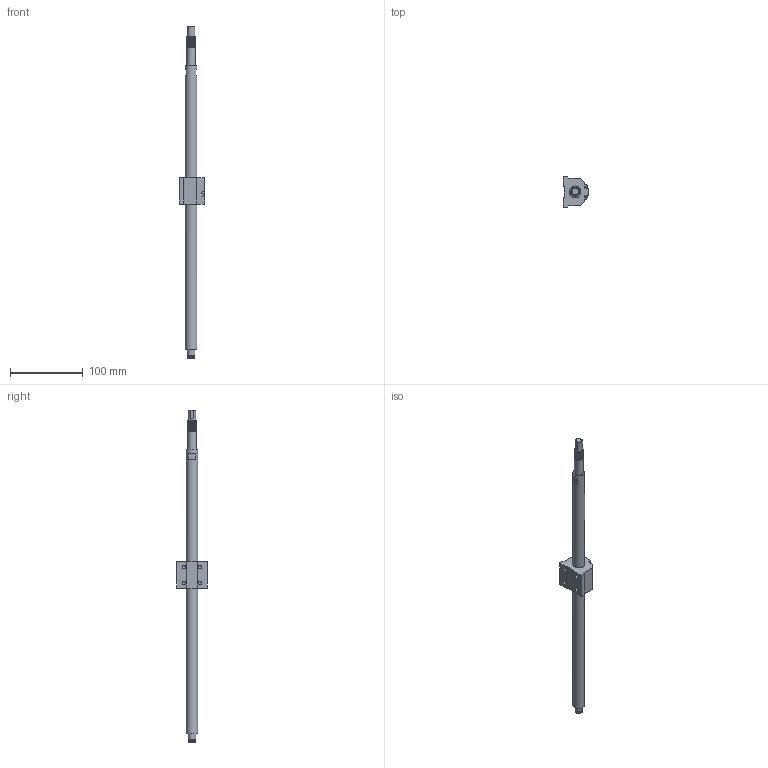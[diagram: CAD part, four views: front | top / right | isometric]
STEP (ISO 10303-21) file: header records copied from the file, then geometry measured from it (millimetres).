
FILE_DESCRIPTION(/* description */ (''),/* implementation_level */ '2;1');
FILE_NAME(/* name */ 'BSG481_asm1.stp',/* time_stamp */ '2017-01-17T15:34:28+08:00',/* author */ (''),/* organization */ (''),/* preprocessor_version */ 'ST-DEVELOPER v15',/* originating_system */ 'SIEMENS PLM Software NX 8.5',/* authorisation */ '');
FILE_SCHEMA (('AUTOMOTIVE_DESIGN { 1 0 10303 214 3 1 1 1 }'));
Length unit declared in the file: millimetre
Products named in the file (3): 01; BSG125; BSG481_asm1
Assembly tree (2 placements, depth 2):
  BSG481_asm1
    BSG125
    01
Bounding box: 34.5 x 42 x 455 mm (x, y, z)
Volume: 116980 mm3; surface area: 32562.7 mm2
Topology: 2 solids, 2 shells, 90 faces, 222 edges, 150 vertices
Faces by surface type: plane 47, cylinder 31, cone 6, torus 4, bspline 2
Full cylindrical faces by diameter (mm): 3.5 x2, 4.2 x4, 5 x5, 6 x3, 9.6 x1, 10 x3, 12 x8, 16 x2
Entity records: 3480 total; most frequent: CARTESIAN_POINT 1728, DIRECTION 344, ORIENTED_EDGE 286, EDGE_CURVE 143, EDGE_LOOP 136, AXIS2_PLACEMENT_3D 135, VERTEX_POINT 115, FACE_BOUND 110
